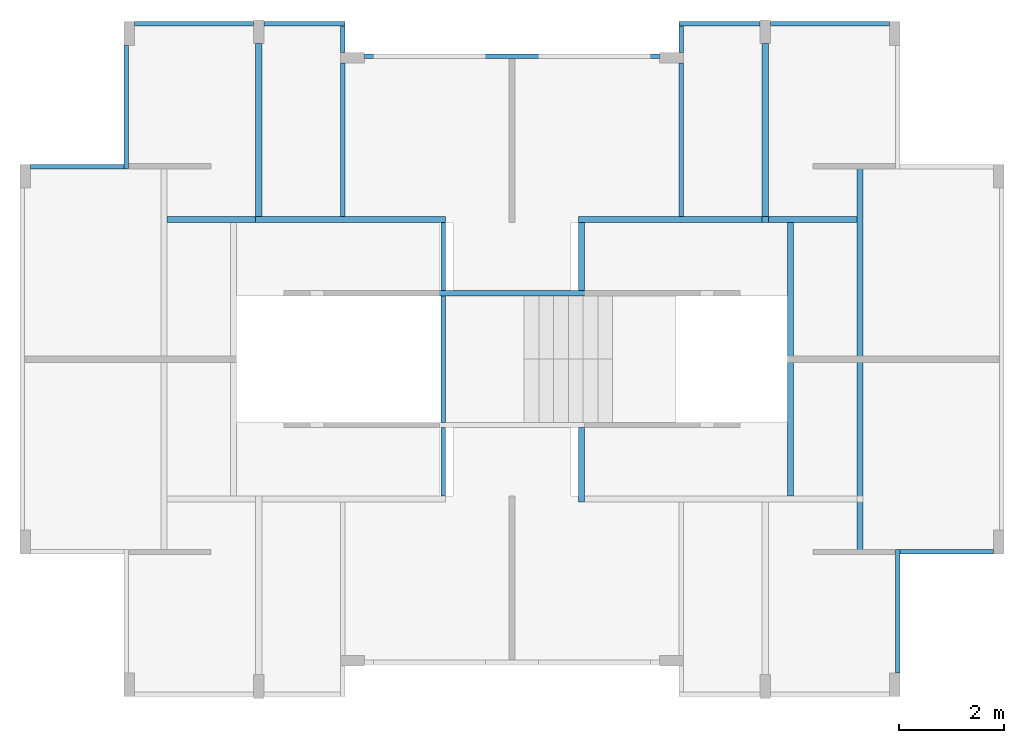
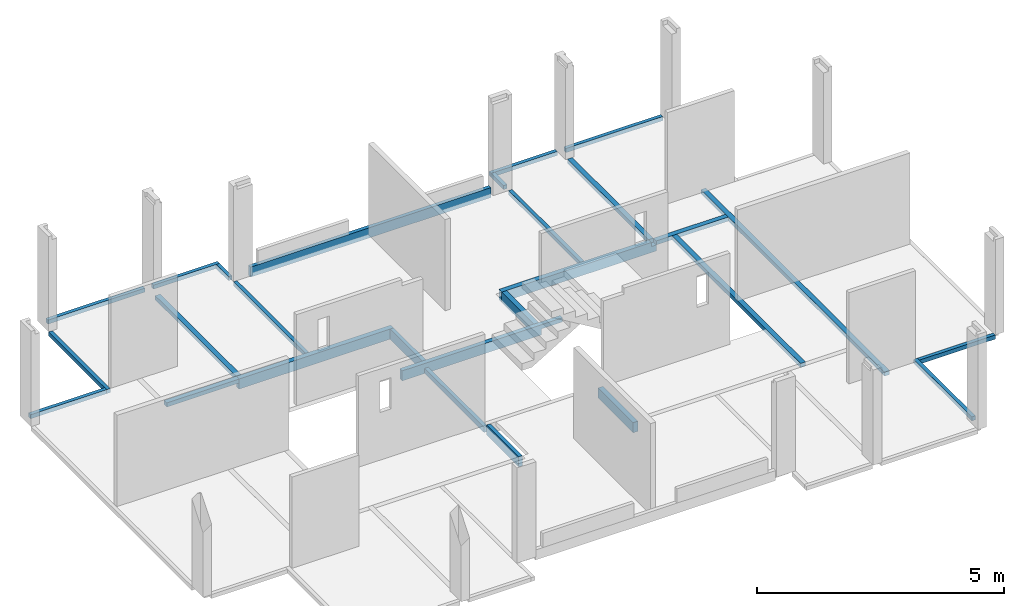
# One storey, part 2 of 6: 21 beams.
"""IFC4 building model written with IfcOpenShell, lengths in metres."""

from ifc_helpers import new_model, entity, si_unit, converted_unit, derived_unit, direction, frame, origin, place, context, subcontext, project, spatial, indexed_curve, outline, extrude, source, transform, mapped, material, type_object, type_shapes, element, save


model = new_model("IFC4")

# Units and contexts
model_context = context("Model", 3, precision=1e-05, world=origin(), true_north=direction((6.123031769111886e-17, 1.0)))
body_context = subcontext(model_context, "Body", "Model", "MODEL_VIEW")
ifc_project = project(units=[si_unit("LENGTHUNIT", "METRE"), si_unit("AREAUNIT", "SQUARE_METRE"), si_unit("VOLUMEUNIT", "CUBIC_METRE"), converted_unit("PLANEANGLEUNIT", "DEGREE", entity("IfcRatioMeasure", 0.017453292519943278), si_unit("PLANEANGLEUNIT", "RADIAN"), dimensions=[0, 0, 0, 0, 0, 0, 0]), si_unit("MASSUNIT", "GRAM", prefix="KILO"), derived_unit("MASSDENSITYUNIT", [(si_unit("MASSUNIT", "GRAM", prefix="KILO"), 1), (si_unit("LENGTHUNIT", "METRE"), -3)]), derived_unit("IONCONCENTRATIONUNIT", [(si_unit("MASSUNIT", "GRAM", prefix="KILO"), 1), (si_unit("LENGTHUNIT", "METRE"), -3)]), derived_unit("MOMENTOFINERTIAUNIT", [(si_unit("LENGTHUNIT", "METRE"), 4)]), si_unit("TIMEUNIT", "SECOND"), si_unit("FREQUENCYUNIT", "HERTZ"), si_unit("THERMODYNAMICTEMPERATUREUNIT", "DEGREE_CELSIUS"), derived_unit("THERMALTRANSMITTANCEUNIT", [(si_unit("MASSUNIT", "GRAM", prefix="KILO"), 1), (si_unit("THERMODYNAMICTEMPERATUREUNIT", "KELVIN"), -1), (si_unit("TIMEUNIT", "SECOND"), -3)]), derived_unit("THERMALCONDUCTANCEUNIT", [(si_unit("MASSUNIT", "GRAM", prefix="KILO"), 1), (si_unit("THERMODYNAMICTEMPERATUREUNIT", "KELVIN"), -1), (si_unit("TIMEUNIT", "SECOND"), -3), (si_unit("LENGTHUNIT", "METRE"), 1)]), derived_unit("VOLUMETRICFLOWRATEUNIT", [(si_unit("LENGTHUNIT", "METRE"), 3), (si_unit("TIMEUNIT", "SECOND"), -1)]), derived_unit("MASSFLOWRATEUNIT", [(si_unit("MASSUNIT", "GRAM", prefix="KILO"), 1), (si_unit("TIMEUNIT", "SECOND"), -1)]), derived_unit("ROTATIONALFREQUENCYUNIT", [(si_unit("TIMEUNIT", "SECOND"), -1)]), si_unit("ELECTRICCURRENTUNIT", "AMPERE"), si_unit("ELECTRICVOLTAGEUNIT", "VOLT"), si_unit("POWERUNIT", "WATT"), si_unit("FORCEUNIT", "NEWTON", prefix="KILO"), si_unit("ILLUMINANCEUNIT", "LUX"), si_unit("LUMINOUSFLUXUNIT", "LUMEN"), si_unit("LUMINOUSINTENSITYUNIT", "CANDELA"), derived_unit("USERDEFINED", [(si_unit("MASSUNIT", "GRAM", prefix="KILO"), -1), (si_unit("LENGTHUNIT", "METRE"), -2), (si_unit("TIMEUNIT", "SECOND"), 3), (si_unit("LUMINOUSFLUXUNIT", "LUMEN"), 1)]), derived_unit("USERDEFINED", [(si_unit("MASSUNIT", "GRAM", prefix="KILO"), 1), (si_unit("TIMEUNIT", "SECOND"), -3), (si_unit("LENGTHUNIT", "METRE"), 3), (si_unit("ELECTRICCURRENTUNIT", "AMPERE"), -2)]), derived_unit("SOUNDPOWERUNIT", [(si_unit("MASSUNIT", "GRAM", prefix="KILO"), 1), (si_unit("TIMEUNIT", "SECOND"), -3), (si_unit("LENGTHUNIT", "METRE"), 2)]), derived_unit("SOUNDPRESSUREUNIT", [(si_unit("MASSUNIT", "GRAM", prefix="KILO"), 1), (si_unit("LENGTHUNIT", "METRE"), -1), (si_unit("TIMEUNIT", "SECOND"), -2)]), derived_unit("LINEARVELOCITYUNIT", [(si_unit("LENGTHUNIT", "METRE"), 1), (si_unit("TIMEUNIT", "SECOND"), -1)]), si_unit("PRESSUREUNIT", "PASCAL"), derived_unit("USERDEFINED", [(si_unit("MASSUNIT", "GRAM", prefix="KILO"), 1), (si_unit("LENGTHUNIT", "METRE"), -2), (si_unit("TIMEUNIT", "SECOND"), -2)]), derived_unit("LINEARFORCEUNIT", [(si_unit("MASSUNIT", "GRAM", prefix="KILO"), 1), (si_unit("TIMEUNIT", "SECOND"), -2)]), derived_unit("PLANARFORCEUNIT", [(si_unit("MASSUNIT", "GRAM", prefix="KILO"), 1), (si_unit("LENGTHUNIT", "METRE"), -1), (si_unit("TIMEUNIT", "SECOND"), -2)]), derived_unit("SPECIFICHEATCAPACITYUNIT", [(si_unit("THERMODYNAMICTEMPERATUREUNIT", "KELVIN"), -1), (si_unit("LENGTHUNIT", "METRE"), 2), (si_unit("TIMEUNIT", "SECOND"), -2)]), derived_unit("HEATINGVALUEUNIT", [(si_unit("LENGTHUNIT", "METRE"), 2), (si_unit("TIMEUNIT", "SECOND"), -2)]), derived_unit("VAPORPERMEABILITYUNIT", [(si_unit("LENGTHUNIT", "METRE"), -1), (si_unit("TIMEUNIT", "SECOND"), 1)]), derived_unit("DYNAMICVISCOSITYUNIT", [(si_unit("MASSUNIT", "GRAM", prefix="KILO"), 1), (si_unit("TIMEUNIT", "SECOND"), -1), (si_unit("LENGTHUNIT", "METRE"), -1)]), derived_unit("THERMALEXPANSIONCOEFFICIENTUNIT", [(si_unit("THERMODYNAMICTEMPERATUREUNIT", "KELVIN"), -1)]), derived_unit("MODULUSOFELASTICITYUNIT", [(si_unit("MASSUNIT", "GRAM", prefix="KILO"), 1), (si_unit("LENGTHUNIT", "METRE"), -1), (si_unit("TIMEUNIT", "SECOND"), -2)]), derived_unit("ISOTHERMALMOISTURECAPACITYUNIT", [(si_unit("LENGTHUNIT", "METRE"), 3), (si_unit("MASSUNIT", "GRAM", prefix="KILO"), -1)]), derived_unit("MOISTUREDIFFUSIVITYUNIT", [(si_unit("TIMEUNIT", "SECOND"), -1), (si_unit("LENGTHUNIT", "METRE"), 2)])], contexts=[model_context])

# Site, building, storey
site_placement = place(None, origin())
site = spatial("IfcSite", under=ifc_project, at=site_placement, Name="Default", CompositionType="ELEMENT")
building_placement = place(site_placement, origin())
building = spatial("IfcBuilding", under=site, at=building_placement, Name="Las nubes", CompositionType="ELEMENT")
storey_placement = place(building_placement, frame((0.0, 0.0, 7.050000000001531)))
storey = spatial("IfcBuildingStorey", under=building, at=storey_placement, Name="PISO 4", CompositionType="ELEMENT", Elevation=7.050000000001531)

# Beams
ifc_material_1 = material(Name="Concrete - Cast-in-Place Concrete - 35 MPa", Category="Materials")
beam_type_1 = type_object("IfcBeamType", Name="M_Concrete-Rectangular Beam:(0.10x0.25)", PredefinedType="BEAM", material=ifc_material_1)
shared_shape_1 = source(origin(), body_context, "Body", "SweptSolid", [
    extrude(outline(indexed_curve([(-0.1107142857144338, -2.1707142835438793), (-0.010714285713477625, -2.1707142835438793), (-0.010714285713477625, -1.6807142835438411), (0.13928571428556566, -1.6807142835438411), (0.13928571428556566, 0.9592857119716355), (0.13928571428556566, 1.04428571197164), (0.13928571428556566, 1.0792857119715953), (0.13928571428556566, 1.5692857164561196), (-0.010714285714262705, 1.5692857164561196), (-0.1107142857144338, 1.5692857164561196), (-0.1107142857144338, 1.0792857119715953), (-0.1107142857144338, 1.04428571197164), (-0.1107142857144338, -0.5307142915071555), (-0.1107142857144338, -1.6807142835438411), (-0.1107142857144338, -2.1707142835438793)], self_intersect=False)), frame((9.021785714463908, -5.22500002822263, 6.939285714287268), z_axis=(0.0, 1.0, 0.0), x_axis=(0.0, 0.0, -1.0)), (0.0, 0.0, 1.0), 0.10000000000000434),
])
type_shapes(beam_type_1, [shared_shape_1])
beam_1_placement = place(storey_placement, frame((0.0, 0.0, -7.050000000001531)))
element("IfcBeam", 1, at=beam_1_placement, inside=storey, type_object=beam_type_1, material=ifc_material_1, Name="M_Concrete-Rectangular Beam:(0.10x0.25)", ObjectType="M_Concrete-Rectangular Beam:(0.10x0.25)", PredefinedType="BEAM", context=body_context, shape_type="MappedRepresentation", body=[
    mapped(shared_shape_1, transform((0.0, 0.0, 0.0), scale=1.0)),
])
ifc_material_2 = material(Name="Concrete, Cast In Situ", Category="Materials")
beam_type_2 = type_object("IfcBeamType", Name="M_Concrete-Rectangular Beam:(0.085x0.10)", PredefinedType="BEAM", material=ifc_material_2)
shared_shape_2 = source(origin(), body_context, "Body", "SweptSolid", [
    extrude(outline(indexed_curve([(-0.04250000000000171, -0.04999999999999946), (0.04250000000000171, -0.04999999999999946), (0.04250000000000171, 0.050000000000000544), (-0.04250000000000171, 0.050000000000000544), (-0.04250000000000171, -0.04999999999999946)], self_intersect=False)), frame((1.9899999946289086, -2.810000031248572, 7.0), z_axis=(0.0, 1.0, 0.0), x_axis=(-1.0, 0.0, 0.0)), (0.0, 0.0, 1.0), 2.3500000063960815),
])
type_shapes(beam_type_2, [shared_shape_2])
beam_2_placement = place(storey_placement, frame((0.0, 0.0, -7.050000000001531)))
element("IfcBeam", 2, at=beam_2_placement, inside=storey, type_object=beam_type_2, material=ifc_material_2, Name="M_Concrete-Rectangular Beam:(0.085x0.10)", ObjectType="M_Concrete-Rectangular Beam:(0.085x0.10)", PredefinedType="BEAM", context=body_context, shape_type="MappedRepresentation", body=[
    mapped(shared_shape_2, transform((0.0, 0.0, 0.0), scale=1.0)),
])
beam_type_3 = type_object("IfcBeamType", Name="M_Concrete-Rectangular Beam:(0.085x0.10)", PredefinedType="BEAM", material=ifc_material_2)
shared_shape_3 = source(origin(), body_context, "Body", "SweptSolid", [
    extrude(outline(indexed_curve([(-0.042500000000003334, -0.04999999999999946), (0.042499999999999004, -0.04999999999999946), (0.042499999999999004, 0.050000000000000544), (-0.042500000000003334, 0.050000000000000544), (-0.042500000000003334, -0.04999999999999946)], self_intersect=False)), frame((16.655000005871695, -12.390000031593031, 7.0), z_axis=(0.0, 1.0, 0.0), x_axis=(-1.0, 0.0, 0.0)), (0.0, 0.0, 1.0), 2.3500028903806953),
])
type_shapes(beam_type_3, [shared_shape_3])
beam_3_placement = place(storey_placement, frame((0.0, 0.0, -7.050000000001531)))
element("IfcBeam", 3, at=beam_3_placement, inside=storey, type_object=beam_type_3, material=ifc_material_2, Name="M_Concrete-Rectangular Beam:(0.085x0.10)", ObjectType="M_Concrete-Rectangular Beam:(0.085x0.10)", PredefinedType="BEAM", context=body_context, shape_type="MappedRepresentation", body=[
    mapped(shared_shape_3, transform((0.0, 0.0, 0.0), scale=1.0)),
])
beam_type_4 = type_object("IfcBeamType", Name="M_Concrete-Rectangular Beam:(0.085x0.10)", PredefinedType="BEAM", material=ifc_material_2)
shared_shape_4 = source(origin(), body_context, "Body", "SweptSolid", [
    extrude(outline(indexed_curve([(-0.05000000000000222, -0.04249999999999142), (0.04999999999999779, -0.042500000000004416), (0.050000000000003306, 0.04249999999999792), (-0.04999999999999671, 0.042500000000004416), (-0.05000000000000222, -0.04249999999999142)], self_intersect=False)), frame((16.697500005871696, -10.082497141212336, 7.0), z_axis=(1.0, 0.0, 0.0), x_axis=(0.0, 0.0, -1.0)), (0.0, 0.0, 1.0), 1.7749999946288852),
])
type_shapes(beam_type_4, [shared_shape_4])
beam_4_placement = place(storey_placement, frame((0.0, 0.0, -7.050000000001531)))
element("IfcBeam", 4, at=beam_4_placement, inside=storey, type_object=beam_type_4, material=ifc_material_2, Name="M_Concrete-Rectangular Beam:(0.085x0.10)", ObjectType="M_Concrete-Rectangular Beam:(0.085x0.10)", PredefinedType="BEAM", context=body_context, shape_type="MappedRepresentation", body=[
    mapped(shared_shape_4, transform((0.0, 0.0, 0.0), scale=1.0)),
])
beam_type_5 = type_object("IfcBeamType", Name="M_Concrete-Rectangular Beam:(0.085x0.25)", PredefinedType="BEAM", material=ifc_material_2)
shared_shape_5 = source(origin(), body_context, "Body", "SweptSolid", [
    extrude(outline(indexed_curve([(-0.04250000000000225, -0.12499999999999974), (0.04250000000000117, -0.12499999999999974), (0.04250000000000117, 0.12499999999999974), (-0.04250000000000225, 0.12499999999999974), (-0.04250000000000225, -0.12499999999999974)], self_intersect=False)), frame((8.020000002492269, -5.125000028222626, 6.9250000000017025), z_axis=(0.0, 1.0, 0.0), x_axis=(-1.0, 0.0, 0.0)), (0.0, 0.0, 1.0), 1.3000000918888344),
    extrude(outline(indexed_curve([(-0.04250000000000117, -0.12499999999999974), (0.04250000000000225, -0.12499999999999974), (0.04250000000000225, 0.12499999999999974), (-0.04250000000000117, 0.12499999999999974), (-0.04250000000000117, -0.12499999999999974)], self_intersect=False)), frame((8.020000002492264, -9.025000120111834, 6.9250000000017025), z_axis=(0.0, 1.0, 0.0), x_axis=(-1.0, 0.0, 0.0)), (0.0, 0.0, 1.0), 1.3000000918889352),
    extrude(outline(indexed_curve([(-0.04250000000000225, -0.06499999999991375), (0.04250000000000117, -0.06499999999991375), (0.042500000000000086, 0.06499999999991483), (-0.04250000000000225, 0.06499999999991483), (-0.04250000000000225, -0.06499999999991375)], self_intersect=False)), frame((8.020000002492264, -7.6250000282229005, 6.865000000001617), z_axis=(0.0, 1.0, 0.0), x_axis=(-1.0, 0.0, 0.0)), (0.0, 0.0, 1.0), 2.4000000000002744),
])
type_shapes(beam_type_5, [shared_shape_5])
beam_5_placement = place(storey_placement, frame((0.0, 0.0, -7.050000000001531)))
element("IfcBeam", 5, at=beam_5_placement, inside=storey, type_object=beam_type_5, material=ifc_material_2, Name="M_Concrete-Rectangular Beam:(0.085x0.25)", ObjectType="M_Concrete-Rectangular Beam:(0.085x0.25)", PredefinedType="BEAM", context=body_context, shape_type="MappedRepresentation", body=[
    mapped(shared_shape_5, transform((0.0, 0.0, 0.0), scale=1.0)),
])
beam_type_6 = type_object("IfcBeamType", Name="M_Concrete-Rectangular Beam:(0.115x0.25)", PredefinedType="BEAM", material=ifc_material_2)
shared_shape_6 = source(origin(), body_context, "Body", "SweptSolid", [
    extrude(outline(indexed_curve([(-0.12500000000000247, -0.05749999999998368), (0.124999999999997, -0.0575000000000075), (0.12500000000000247, 0.05749999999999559), (-0.124999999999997, 0.0575000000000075), (-0.12500000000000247, -0.05749999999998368)], self_intersect=False)), frame((8.062500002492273, -3.7674999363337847, 6.9250000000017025), z_axis=(-1.0, 0.0, 0.0), x_axis=(0.0, 0.0, -1.0)), (0.0, 0.0, 1.0), 3.610000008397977),
])
type_shapes(beam_type_6, [shared_shape_6])
beam_6_placement = place(storey_placement, frame((0.0, 0.0, -7.050000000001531)))
element("IfcBeam", 6, at=beam_6_placement, inside=storey, type_object=beam_type_6, material=ifc_material_2, Name="M_Concrete-Rectangular Beam:(0.115x0.25)", ObjectType="M_Concrete-Rectangular Beam:(0.115x0.25)", PredefinedType="BEAM", context=body_context, shape_type="MappedRepresentation", body=[
    mapped(shared_shape_6, transform((0.0, 0.0, 0.0), scale=1.0)),
])
beam_type_7 = type_object("IfcBeamType", Name="M_Concrete-Rectangular Beam:(0.115x0.25)", PredefinedType="BEAM", material=ifc_material_2)
shared_shape_7 = source(origin(), body_context, "Body", "SweptSolid", [
    extrude(outline(indexed_curve([(-0.05750000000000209, -0.12499999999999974), (0.05750000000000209, -0.12499999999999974), (0.05750000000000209, 0.12499999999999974), (-0.05750000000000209, 0.12499999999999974), (-0.05750000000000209, -0.12499999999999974)], self_intersect=False)), frame((10.639999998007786, -9.140000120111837, 6.9250000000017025), z_axis=(0.0, 1.0, 0.0), x_axis=(-1.0, 0.0, 0.0)), (0.0, 0.0, 1.0), 1.4150000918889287),
])
type_shapes(beam_type_7, [shared_shape_7])
beam_7_placement = place(storey_placement, frame((0.0, 0.0, -7.050000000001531)))
element("IfcBeam", 7, at=beam_7_placement, inside=storey, type_object=beam_type_7, material=ifc_material_2, Name="M_Concrete-Rectangular Beam:(0.115x0.25)", ObjectType="M_Concrete-Rectangular Beam:(0.115x0.25)", PredefinedType="BEAM", context=body_context, shape_type="MappedRepresentation", body=[
    mapped(shared_shape_7, transform((0.0, 0.0, 0.0), scale=1.0)),
])
beam_type_8 = type_object("IfcBeamType", Name="M_Concrete-Rectangular Beam:(0.115x0.25)", PredefinedType="BEAM", material=ifc_material_2)
shared_shape_8 = source(origin(), body_context, "Body", "SweptSolid", [
    extrude(outline(indexed_curve([(-2.005555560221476, -0.13333333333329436), (1.4894444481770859, -0.13333333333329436), (1.60444444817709, -0.13333333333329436), (1.60444444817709, 0.016666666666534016), (1.60444444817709, 0.11666666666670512), (1.4894444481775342, 0.11666666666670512), (-1.8905555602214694, 0.11666666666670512), (-1.8905555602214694, 0.01666666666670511), (-2.005555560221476, 0.016666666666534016), (-2.005555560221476, -0.13333333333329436)], self_intersect=False)), frame((12.186944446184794, -3.8249999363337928, 6.933333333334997), z_axis=(0.0, 1.0, 0.0), x_axis=(-1.0, 0.0, 0.0)), (0.0, 0.0, 1.0), 0.1150000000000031),
])
type_shapes(beam_type_8, [shared_shape_8])
beam_8_placement = place(storey_placement, frame((0.0, 0.0, -7.050000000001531)))
element("IfcBeam", 8, at=beam_8_placement, inside=storey, type_object=beam_type_8, material=ifc_material_2, Name="M_Concrete-Rectangular Beam:(0.115x0.25)", ObjectType="M_Concrete-Rectangular Beam:(0.115x0.25)", PredefinedType="BEAM", context=body_context, shape_type="MappedRepresentation", body=[
    mapped(shared_shape_8, transform((0.0, 0.0, 0.0), scale=1.0)),
])
beam_type_9 = type_object("IfcBeamType", Name="M_Concrete-Rectangular Beam:(0.115x0.25)", PredefinedType="BEAM", material=ifc_material_2)
shared_shape_9 = source(origin(), body_context, "Body", "SweptSolid", [
    extrude(outline(indexed_curve([(-0.05750000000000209, -0.12499999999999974), (0.05750000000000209, -0.12499999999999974), (0.05750000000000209, 0.12499999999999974), (-0.05750000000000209, 0.12499999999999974), (-0.05750000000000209, -0.12499999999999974)], self_intersect=False)), frame((10.63999999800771, -5.125000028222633, 6.9250000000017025), z_axis=(0.0, 1.0, 0.0), x_axis=(-1.0, 0.0, 0.0)), (0.0, 0.0, 1.0), 1.3000000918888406),
])
type_shapes(beam_type_9, [shared_shape_9])
beam_9_placement = place(storey_placement, frame((0.0, 0.0, -7.050000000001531)))
element("IfcBeam", 9, at=beam_9_placement, inside=storey, type_object=beam_type_9, material=ifc_material_2, Name="M_Concrete-Rectangular Beam:(0.115x0.25)", ObjectType="M_Concrete-Rectangular Beam:(0.115x0.25)", PredefinedType="BEAM", context=body_context, shape_type="MappedRepresentation", body=[
    mapped(shared_shape_9, transform((0.0, 0.0, 0.0), scale=1.0)),
])
beam_type_10 = type_object("IfcBeamType", Name="M_Concrete-Rectangular Beam:(0.085x0.25)", PredefinedType="BEAM", material=ifc_material_2)
shared_shape_10 = source(origin(), body_context, "Body", "SweptSolid", [
    extrude(outline(indexed_curve([(-0.12500000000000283, -0.042499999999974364), (0.12499999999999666, -0.04250000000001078), (0.12500000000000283, 0.04249999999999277), (-0.12499999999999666, 0.04250000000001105), (-0.12500000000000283, -0.042499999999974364)], self_intersect=False)), frame((6.517499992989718, -0.6675000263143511, 7.075000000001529), z_axis=(1.0, 0.0, 0.0), x_axis=(0.0, 0.0, -1.0)), (0.0, 0.0, 1.0), 5.610000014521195),
])
type_shapes(beam_type_10, [shared_shape_10])
beam_10_placement = place(storey_placement, frame((0.0, 0.0, -7.050000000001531)))
element("IfcBeam", 10, at=beam_10_placement, inside=storey, type_object=beam_type_10, material=ifc_material_2, Name="M_Concrete-Rectangular Beam:(0.085x0.25)", ObjectType="M_Concrete-Rectangular Beam:(0.085x0.25)", PredefinedType="BEAM", context=body_context, shape_type="MappedRepresentation", body=[
    mapped(shared_shape_10, transform((0.0, 0.0, 0.0), scale=1.0)),
])
beam_type_11 = type_object("IfcBeamType", Name="M_Concrete-Rectangular Beam:(0.115x0.10)", PredefinedType="BEAM", material=ifc_material_2)
shared_shape_11 = source(origin(), body_context, "Body", "SweptSolid", [
    extrude(outline(indexed_curve([(-0.05750000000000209, -0.04999999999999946), (0.05750000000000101, -0.04999999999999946), (0.05750000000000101, 0.050000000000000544), (-0.05750000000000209, 0.050000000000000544), (-0.05750000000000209, -0.04999999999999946)], self_intersect=False)), frame((4.5099999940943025, -0.4300000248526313, 7.0), z_axis=(0.0, -1.0, 0.0), x_axis=(-1.0, 0.0, 0.0)), (0.0, 0.0, 1.0), 3.2799999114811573),
])
type_shapes(beam_type_11, [shared_shape_11])
beam_11_placement = place(storey_placement, frame((0.0, 0.0, -7.050000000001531)))
element("IfcBeam", 11, at=beam_11_placement, inside=storey, type_object=beam_type_11, material=ifc_material_2, Name="M_Concrete-Rectangular Beam:(0.115x0.10)", ObjectType="M_Concrete-Rectangular Beam:(0.115x0.10)", PredefinedType="BEAM", context=body_context, shape_type="MappedRepresentation", body=[
    mapped(shared_shape_11, transform((0.0, 0.0, 0.0), scale=1.0)),
])
beam_type_12 = type_object("IfcBeamType", Name="M_Concrete-Rectangular Beam:(0.115x0.10)", PredefinedType="BEAM", material=ifc_material_2)
shared_shape_12 = source(origin(), body_context, "Body", "SweptSolid", [
    extrude(outline(indexed_curve([(-0.05000000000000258, -0.057499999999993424), (0.049999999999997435, -0.057500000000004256), (0.05000000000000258, 0.057499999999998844), (-0.049999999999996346, 0.057500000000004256), (-0.05000000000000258, -0.057499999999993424)], self_intersect=False)), frame((4.452499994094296, -3.7675000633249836, 7.0), z_axis=(-1.0, 0.0, 0.0), x_axis=(0.0, 0.0, -1.0)), (0.0, 0.0, 1.0), 1.6849989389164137),
])
type_shapes(beam_type_12, [shared_shape_12])
beam_12_placement = place(storey_placement, frame((0.0, 0.0, -7.050000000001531)))
element("IfcBeam", 12, at=beam_12_placement, inside=storey, type_object=beam_type_12, material=ifc_material_2, Name="M_Concrete-Rectangular Beam:(0.115x0.10)", ObjectType="M_Concrete-Rectangular Beam:(0.115x0.10)", PredefinedType="BEAM", context=body_context, shape_type="MappedRepresentation", body=[
    mapped(shared_shape_12, transform((0.0, 0.0, 0.0), scale=1.0)),
])
beam_type_13 = type_object("IfcBeamType", Name="M_Concrete-Rectangular Beam:(0.115x0.10)", PredefinedType="BEAM", material=ifc_material_2)
shared_shape_13 = source(origin(), body_context, "Body", "SweptSolid", [
    extrude(outline(indexed_curve([(-0.057500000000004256, -0.04999999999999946), (0.05750000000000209, -0.04999999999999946), (0.05750000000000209, 0.050000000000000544), (-0.05750000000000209, 0.050000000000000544), (-0.057500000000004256, -0.04999999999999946)], self_intersect=False)), frame((15.934998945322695, -10.14000003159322, 7.0), z_axis=(0.0, 1.0, 0.0), x_axis=(-1.0, 0.0, 0.0)), (0.0, 0.0, 1.0), 7.430000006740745),
])
type_shapes(beam_type_13, [shared_shape_13])
beam_13_placement = place(storey_placement, frame((0.0, 0.0, -7.050000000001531)))
element("IfcBeam", 13, at=beam_13_placement, inside=storey, type_object=beam_type_13, material=ifc_material_2, Name="M_Concrete-Rectangular Beam:(0.115x0.10)", ObjectType="M_Concrete-Rectangular Beam:(0.115x0.10)", PredefinedType="BEAM", context=body_context, shape_type="MappedRepresentation", body=[
    mapped(shared_shape_13, transform((0.0, 0.0, 0.0), scale=1.0)),
])
beam_type_14 = type_object("IfcBeamType", Name="M_Concrete-Rectangular Beam:(0.115x0.10)", PredefinedType="BEAM", material=ifc_material_2)
shared_shape_14 = source(origin(), body_context, "Body", "SweptSolid", [
    extrude(outline(indexed_curve([(-0.05750000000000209, -0.04999999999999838), (0.05750000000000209, -0.04999999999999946), (0.05750000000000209, 0.050000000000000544), (-0.05750000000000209, 0.050000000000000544), (-0.05750000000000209, -0.04999999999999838)], self_intersect=False)), frame((14.615000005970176, -9.025000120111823, 7.0), z_axis=(0.0, 1.0, 0.0), x_axis=(-1.0, 0.0, 0.0)), (0.0, 0.0, 1.0), 5.200000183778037),
])
type_shapes(beam_type_14, [shared_shape_14])
beam_14_placement = place(storey_placement, frame((0.0, 0.0, -7.050000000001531)))
element("IfcBeam", 14, at=beam_14_placement, inside=storey, type_object=beam_type_14, material=ifc_material_2, Name="M_Concrete-Rectangular Beam:(0.115x0.10)", ObjectType="M_Concrete-Rectangular Beam:(0.115x0.10)", PredefinedType="BEAM", context=body_context, shape_type="MappedRepresentation", body=[
    mapped(shared_shape_14, transform((0.0, 0.0, 0.0), scale=1.0)),
])
beam_type_15 = type_object("IfcBeamType", Name="M_Concrete-Rectangular Beam:(0.115x0.10)", PredefinedType="BEAM", material=ifc_material_2)
shared_shape_15 = source(origin(), body_context, "Body", "SweptSolid", [
    extrude(outline(indexed_curve([(-0.05000000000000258, -0.057499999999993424), (0.049999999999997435, -0.057500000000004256), (0.05000000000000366, 0.057499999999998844), (-0.049999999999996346, 0.057500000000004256), (-0.05000000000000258, -0.057499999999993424)], self_intersect=False)), frame((14.19250000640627, -3.7675000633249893, 7.0), z_axis=(1.0, 0.0, 0.0), x_axis=(0.0, 0.0, -1.0)), (0.0, 0.0, 1.0), 1.684998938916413),
])
type_shapes(beam_type_15, [shared_shape_15])
beam_15_placement = place(storey_placement, frame((0.0, 0.0, -7.050000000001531)))
element("IfcBeam", 15, at=beam_15_placement, inside=storey, type_object=beam_type_15, material=ifc_material_2, Name="M_Concrete-Rectangular Beam:(0.115x0.10)", ObjectType="M_Concrete-Rectangular Beam:(0.115x0.10)", PredefinedType="BEAM", context=body_context, shape_type="MappedRepresentation", body=[
    mapped(shared_shape_15, transform((0.0, 0.0, 0.0), scale=1.0)),
])
beam_type_16 = type_object("IfcBeamType", Name="M_Concrete-Rectangular Beam:(0.115x0.10)", PredefinedType="BEAM", material=ifc_material_2)
shared_shape_16 = source(origin(), body_context, "Body", "SweptSolid", [
    extrude(outline(indexed_curve([(-0.057499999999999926, -0.04999999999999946), (0.05750000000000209, -0.04999999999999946), (0.057500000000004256, 0.050000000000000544), (-0.05750000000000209, 0.050000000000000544), (-0.057499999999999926, -0.04999999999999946)], self_intersect=False)), frame((14.135000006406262, -0.4300000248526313, 7.0), z_axis=(0.0, -1.0, 0.0), x_axis=(-1.0, 0.0, 0.0)), (0.0, 0.0, 1.0), 3.280000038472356),
])
type_shapes(beam_type_16, [shared_shape_16])
beam_16_placement = place(storey_placement, frame((0.0, 0.0, -7.050000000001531)))
element("IfcBeam", 16, at=beam_16_placement, inside=storey, type_object=beam_type_16, material=ifc_material_2, Name="M_Concrete-Rectangular Beam:(0.115x0.10)", ObjectType="M_Concrete-Rectangular Beam:(0.115x0.10)", PredefinedType="BEAM", context=body_context, shape_type="MappedRepresentation", body=[
    mapped(shared_shape_16, transform((0.0, 0.0, 0.0), scale=1.0)),
])
beam_type_17 = type_object("IfcBeamType", Name="M_Concrete-Rectangular Beam:(0.085x0.10)", PredefinedType="BEAM", material=ifc_material_2)
shared_shape_17 = source(origin(), body_context, "Body", "SweptSolid", [
    extrude(outline(indexed_curve([(-0.05000000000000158, -0.0424999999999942), (0.04999999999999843, -0.04250000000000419), (0.05000000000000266, 0.0424999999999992), (-0.049999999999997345, 0.04250000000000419), (-0.05000000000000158, -0.0424999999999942)], self_intersect=False)), frame((14.035000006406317, -0.05250003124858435, 7.0), z_axis=(-1.0, 0.0, 0.0), x_axis=(0.0, 0.0, -1.0)), (0.0, 0.0, 1.0), 1.5424999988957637),
    extrude(outline(indexed_curve([(-0.05000000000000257, -0.042499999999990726), (0.04999999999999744, -0.042500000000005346), (0.05000000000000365, 0.04249999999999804), (-0.04999999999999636, 0.042500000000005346), (-0.05000000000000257, -0.042499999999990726)], self_intersect=False)), frame((16.497500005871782, -0.05250003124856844, 7.0), z_axis=(-1.0, 0.0, 0.0), x_axis=(0.0, 0.0, -1.0)), (0.0, 0.0, 1.0), 2.2624999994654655),
])
type_shapes(beam_type_17, [shared_shape_17])
beam_17_placement = place(storey_placement, frame((0.0, 0.0, -7.050000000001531)))
element("IfcBeam", 17, at=beam_17_placement, inside=storey, type_object=beam_type_17, material=ifc_material_2, Name="M_Concrete-Rectangular Beam:(0.085x0.10)", ObjectType="M_Concrete-Rectangular Beam:(0.085x0.10)", PredefinedType="BEAM", context=body_context, shape_type="MappedRepresentation", body=[
    mapped(shared_shape_17, transform((0.0, 0.0, 0.0), scale=1.0)),
])
beam_type_18 = type_object("IfcBeamType", Name="M_Concrete-Rectangular Beam:(0.085x0.10)", PredefinedType="BEAM", material=ifc_material_2)
shared_shape_18 = source(origin(), body_context, "Body", "SweptSolid", [
    extrude(outline(indexed_curve([(-0.04250000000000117, -0.04999999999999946), (0.04250000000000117, -0.04999999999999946), (0.04250000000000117, 0.050000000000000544), (-0.04250000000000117, 0.050000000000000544), (-0.04250000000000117, -0.04999999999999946)], self_intersect=False)), frame((12.535000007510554, -0.7950000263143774, 7.0), z_axis=(0.0, -1.0, 0.0), x_axis=(-1.0, 0.0, 0.0)), (0.0, 0.0, 1.0), 2.914999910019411),
    extrude(outline(indexed_curve([(-0.04250000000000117, -0.04999999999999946), (0.04250000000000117, -0.04999999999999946), (0.04250000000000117, 0.050000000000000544), (-0.04250000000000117, 0.050000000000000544), (-0.04250000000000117, -0.04999999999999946)], self_intersect=False)), frame((12.535000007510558, -0.09500002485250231, 7.0), z_axis=(0.0, -1.0, 0.0), x_axis=(-1.0, 0.0, 0.0)), (0.0, 0.0, 1.0), 0.5000000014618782),
])
type_shapes(beam_type_18, [shared_shape_18])
beam_18_placement = place(storey_placement, frame((0.0, 0.0, -7.050000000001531)))
element("IfcBeam", 18, at=beam_18_placement, inside=storey, type_object=beam_type_18, material=ifc_material_2, Name="M_Concrete-Rectangular Beam:(0.085x0.10)", ObjectType="M_Concrete-Rectangular Beam:(0.085x0.10)", PredefinedType="BEAM", context=body_context, shape_type="MappedRepresentation", body=[
    mapped(shared_shape_18, transform((0.0, 0.0, 0.0), scale=1.0)),
])
beam_type_19 = type_object("IfcBeamType", Name="M_Concrete-Rectangular Beam:(0.085x0.10)", PredefinedType="BEAM", material=ifc_material_2)
shared_shape_19 = source(origin(), body_context, "Body", "SweptSolid", [
    extrude(outline(indexed_curve([(-0.050000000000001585, -0.042499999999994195), (0.04999999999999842, -0.04250000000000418), (0.05000000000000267, 0.0424999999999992), (-0.04999999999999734, 0.04250000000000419), (-0.050000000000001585, -0.042499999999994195)], self_intersect=False)), frame((4.609999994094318, -0.05247950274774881, 7.0), z_axis=(1.0, 0.0, 0.0), x_axis=(0.0, 0.0, -1.0)), (0.0, 0.0, 1.0), 1.5424999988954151),
    extrude(outline(indexed_curve([(-0.05000000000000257, -0.042499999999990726), (0.04999999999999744, -0.042500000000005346), (0.05000000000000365, 0.04249999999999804), (-0.04999999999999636, 0.042500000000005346), (-0.05000000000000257, -0.042499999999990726)], self_intersect=False)), frame((2.14749999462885, -0.05247950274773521, 7.0), z_axis=(1.0, 0.0, 0.0), x_axis=(0.0, 0.0, -1.0)), (0.0, 0.0, 1.0), 2.2624999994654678),
])
type_shapes(beam_type_19, [shared_shape_19])
beam_19_placement = place(storey_placement, frame((0.0, 0.0, -7.050000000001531)))
element("IfcBeam", 19, at=beam_19_placement, inside=storey, type_object=beam_type_19, material=ifc_material_2, Name="M_Concrete-Rectangular Beam:(0.085x0.10)", ObjectType="M_Concrete-Rectangular Beam:(0.085x0.10)", PredefinedType="BEAM", context=body_context, shape_type="MappedRepresentation", body=[
    mapped(shared_shape_19, transform((0.0, 0.0, 0.0), scale=1.0)),
])
beam_type_20 = type_object("IfcBeamType", Name="M_Concrete-Rectangular Beam:(0.085x0.10)", PredefinedType="BEAM", material=ifc_material_2)
shared_shape_20 = source(origin(), body_context, "Body", "SweptSolid", [
    extrude(outline(indexed_curve([(-0.04250000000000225, -0.04999999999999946), (0.04250000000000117, -0.04999999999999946), (0.04250000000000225, 0.050000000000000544), (-0.04250000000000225, 0.04999999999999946), (-0.04250000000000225, -0.04999999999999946)], self_intersect=False)), frame((6.109999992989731, -0.09497950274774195, 7.0), z_axis=(0.0, -1.0, 0.0), x_axis=(-1.0, 0.0, 0.0)), (0.0, 0.0, 1.0), 0.5000205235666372),
    extrude(outline(indexed_curve([(-0.04250000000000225, -0.04999999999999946), (0.04250000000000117, -0.04999999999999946), (0.04250000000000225, 0.050000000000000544), (-0.04250000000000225, 0.04999999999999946), (-0.04250000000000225, -0.04999999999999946)], self_intersect=False)), frame((6.10999999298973, -0.7950000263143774, 7.0), z_axis=(0.0, -1.0, 0.0), x_axis=(-1.0, 0.0, 0.0)), (0.0, 0.0, 1.0), 2.914999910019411),
])
type_shapes(beam_type_20, [shared_shape_20])
beam_20_placement = place(storey_placement, frame((0.0, 0.0, -7.050000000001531)))
element("IfcBeam", 20, at=beam_20_placement, inside=storey, type_object=beam_type_20, material=ifc_material_2, Name="M_Concrete-Rectangular Beam:(0.085x0.10)", ObjectType="M_Concrete-Rectangular Beam:(0.085x0.10)", PredefinedType="BEAM", context=body_context, shape_type="MappedRepresentation", body=[
    mapped(shared_shape_20, transform((0.0, 0.0, 0.0), scale=1.0)),
])
beam_type_21 = type_object("IfcBeamType", Name="M_Concrete-Rectangular Beam:(0.085x0.10)", PredefinedType="BEAM", material=ifc_material_2)
shared_shape_21 = source(origin(), body_context, "Body", "SweptSolid", [
    extrude(outline(indexed_curve([(-0.050000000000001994, -0.042499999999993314), (0.04999999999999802, -0.04250000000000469), (0.05000000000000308, 0.04249999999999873), (-0.049999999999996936, 0.04250000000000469), (-0.050000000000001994, -0.042499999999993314)], self_intersect=False)), frame((0.17250000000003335, -2.7675000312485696, 7.0), z_axis=(1.0, 0.0, 0.0), x_axis=(0.0, 0.0, -1.0)), (0.0, 0.0, 1.0), 1.7749999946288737),
])
type_shapes(beam_type_21, [shared_shape_21])
beam_21_placement = place(storey_placement, frame((0.0, 0.0, -7.050000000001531)))
element("IfcBeam", 21, at=beam_21_placement, inside=storey, type_object=beam_type_21, material=ifc_material_2, Name="M_Concrete-Rectangular Beam:(0.085x0.10)", ObjectType="M_Concrete-Rectangular Beam:(0.085x0.10)", PredefinedType="BEAM", context=body_context, shape_type="MappedRepresentation", body=[
    mapped(shared_shape_21, transform((0.0, 0.0, 0.0), scale=1.0)),
])

save(model, "model.ifc")
